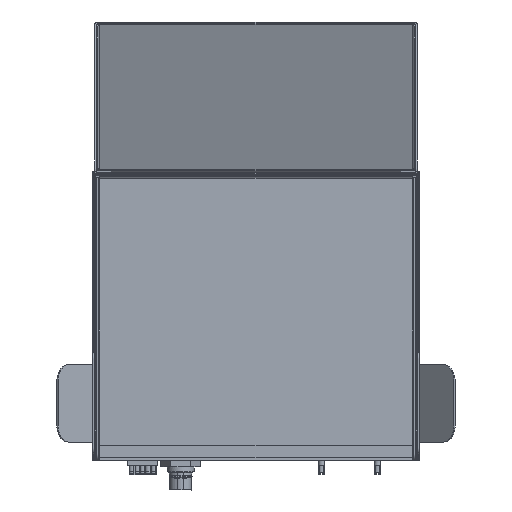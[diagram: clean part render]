
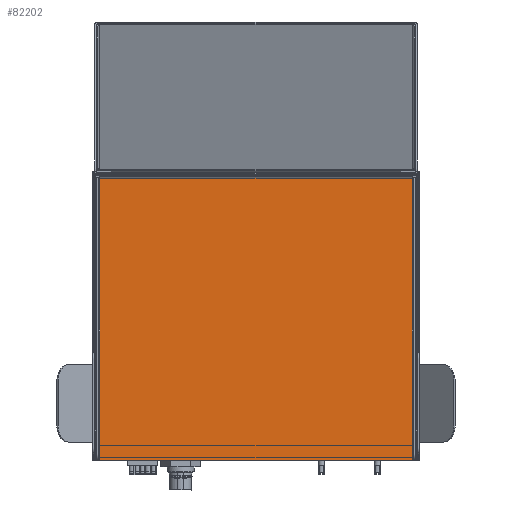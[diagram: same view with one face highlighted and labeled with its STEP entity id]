
A CAD part, front view. The second image highlights one B-rep face of the part: STEP entity #82202.
In plain terms, the highlighted planar face has unit normal (0, -1, 0).
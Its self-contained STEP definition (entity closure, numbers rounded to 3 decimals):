
#11053 = VERTEX_POINT ( 'NONE', #123239 ) ;
#18892 = ORIENTED_EDGE ( 'NONE', *, *, #65653, .F. ) ;
#24029 = ORIENTED_EDGE ( 'NONE', *, *, #84750, .F. ) ;
#26599 = VECTOR ( 'NONE', #164276, 1000. ) ;
#26690 = EDGE_LOOP ( 'NONE', ( #195496, #24029, #110142, #18892 ) ) ;
#37455 = VERTEX_POINT ( 'NONE', #75218 ) ;
#39998 = LINE ( 'NONE', #231600, #132059 ) ;
#49076 = EDGE_CURVE ( 'NONE', #168066, #11053, #118688, .T. ) ;
#65653 = EDGE_CURVE ( 'NONE', #37455, #168066, #202854, .T. ) ;
#74207 = CARTESIAN_POINT ( 'NONE',  ( 145., -5.5, 0. ) ) ;
#75218 = CARTESIAN_POINT ( 'NONE',  ( -145., -5.5, 262. ) ) ;
#82202 = ADVANCED_FACE ( 'NONE', ( #176254 ), #217103, .F. ) ;
#84750 = EDGE_CURVE ( 'NONE', #11053, #191078, #39998, .T. ) ;
#88953 = LINE ( 'NONE', #205823, #94700 ) ;
#94700 = VECTOR ( 'NONE', #96323, 1000. ) ;
#96323 = DIRECTION ( 'NONE',  ( 0., 0., 1. ) ) ;
#104477 = DIRECTION ( 'NONE',  ( 1., 0., 0. ) ) ;
#110142 = ORIENTED_EDGE ( 'NONE', *, *, #49076, .F. ) ;
#118688 = LINE ( 'NONE', #74207, #26599 ) ;
#122110 = DIRECTION ( 'NONE',  ( -1., 0., 0. ) ) ;
#123239 = CARTESIAN_POINT ( 'NONE',  ( 145., -5.5, 0. ) ) ;
#124630 = CARTESIAN_POINT ( 'NONE',  ( -145., -5.5, 0. ) ) ;
#125320 = DIRECTION ( 'NONE',  ( 1., 0., 0. ) ) ;
#132059 = VECTOR ( 'NONE', #122110, 1000. ) ;
#153820 = VECTOR ( 'NONE', #104477, 1000. ) ;
#164276 = DIRECTION ( 'NONE',  ( 0., 0., -1. ) ) ;
#168066 = VERTEX_POINT ( 'NONE', #203927 ) ;
#176254 = FACE_OUTER_BOUND ( 'NONE', #26690, .T. ) ;
#177132 = AXIS2_PLACEMENT_3D ( 'NONE', #216325, #235629, #125320 ) ;
#191078 = VERTEX_POINT ( 'NONE', #124630 ) ;
#195496 = ORIENTED_EDGE ( 'NONE', *, *, #212553, .F. ) ;
#202854 = LINE ( 'NONE', #214700, #153820 ) ;
#203927 = CARTESIAN_POINT ( 'NONE',  ( 145., -5.5, 262. ) ) ;
#205823 = CARTESIAN_POINT ( 'NONE',  ( -145., -5.5, 0. ) ) ;
#212553 = EDGE_CURVE ( 'NONE', #191078, #37455, #88953, .T. ) ;
#214700 = CARTESIAN_POINT ( 'NONE',  ( -145., -5.5, 262. ) ) ;
#216325 = CARTESIAN_POINT ( 'NONE',  ( 0., -5.5, 262. ) ) ;
#217103 = PLANE ( 'NONE',  #177132 ) ;
#231600 = CARTESIAN_POINT ( 'NONE',  ( -145., -5.5, 0. ) ) ;
#235629 = DIRECTION ( 'NONE',  ( 0., 1., 0. ) ) ;
